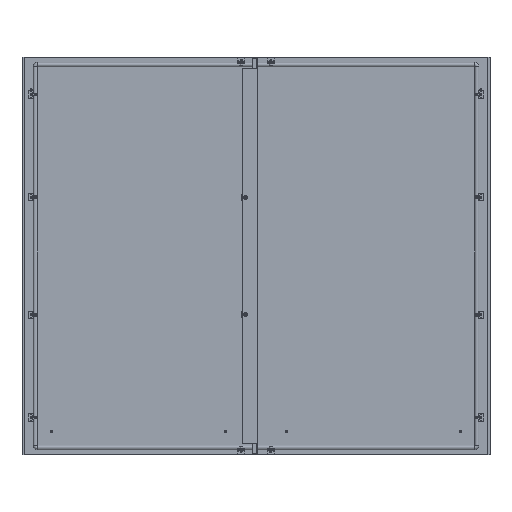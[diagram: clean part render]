
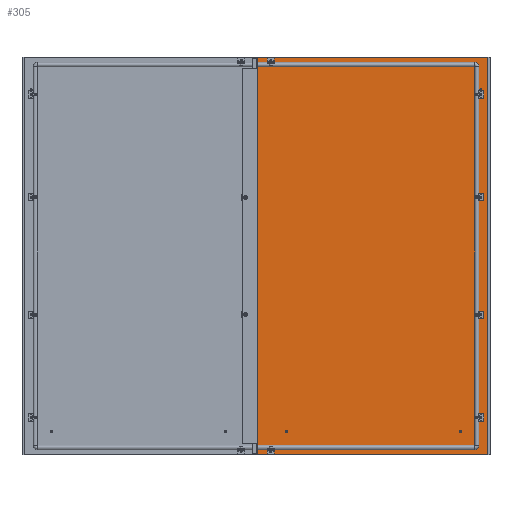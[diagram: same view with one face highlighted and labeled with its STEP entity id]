
A CAD part, top view. The second image highlights one B-rep face of the part: STEP entity #305.
In plain terms, the highlighted planar face has unit normal (0, 0, 1) as drawn and (0, 0, -1) by its records, which use the part's own axes.
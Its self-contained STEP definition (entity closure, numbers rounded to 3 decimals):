
#305 = ADVANCED_FACE('',(#306,#317,#328,#339,#350,#361,#372),#470,.T.);
#306 = FACE_BOUND('',#307,.T.);
#307 = EDGE_LOOP('',(#308));
#308 = ORIENTED_EDGE('',*,*,#309,.T.);
#309 = EDGE_CURVE('',#310,#310,#312,.T.);
#310 = VERTEX_POINT('',#311);
#311 = CARTESIAN_POINT('',(369.25,-550.,-1.5));
#312 = CIRCLE('',#313,4.75);
#313 = AXIS2_PLACEMENT_3D('',#314,#315,#316);
#314 = CARTESIAN_POINT('',(364.5,-550.,-1.5));
#315 = DIRECTION('',(0.,0.,1.));
#316 = DIRECTION('',(1.,0.,-0.));
#317 = FACE_BOUND('',#318,.T.);
#318 = EDGE_LOOP('',(#319));
#319 = ORIENTED_EDGE('',*,*,#320,.T.);
#320 = EDGE_CURVE('',#321,#321,#323,.T.);
#321 = VERTEX_POINT('',#322);
#322 = CARTESIAN_POINT('',(369.25,-200.,-1.5));
#323 = CIRCLE('',#324,4.75);
#324 = AXIS2_PLACEMENT_3D('',#325,#326,#327);
#325 = CARTESIAN_POINT('',(364.5,-200.,-1.5));
#326 = DIRECTION('',(0.,0.,1.));
#327 = DIRECTION('',(1.,0.,-0.));
#328 = FACE_BOUND('',#329,.T.);
#329 = EDGE_LOOP('',(#330));
#330 = ORIENTED_EDGE('',*,*,#331,.F.);
#331 = EDGE_CURVE('',#332,#332,#334,.T.);
#332 = VERTEX_POINT('',#333);
#333 = CARTESIAN_POINT('',(369.25,550.,-1.5));
#334 = CIRCLE('',#335,4.75);
#335 = AXIS2_PLACEMENT_3D('',#336,#337,#338);
#336 = CARTESIAN_POINT('',(364.5,550.,-1.5));
#337 = DIRECTION('',(0.,0.,-1.));
#338 = DIRECTION('',(1.,0.,0.));
#339 = FACE_BOUND('',#340,.T.);
#340 = EDGE_LOOP('',(#341));
#341 = ORIENTED_EDGE('',*,*,#342,.F.);
#342 = EDGE_CURVE('',#343,#343,#345,.T.);
#343 = VERTEX_POINT('',#344);
#344 = CARTESIAN_POINT('',(369.25,200.,-1.5));
#345 = CIRCLE('',#346,4.75);
#346 = AXIS2_PLACEMENT_3D('',#347,#348,#349);
#347 = CARTESIAN_POINT('',(364.5,200.,-1.5));
#348 = DIRECTION('',(0.,0.,-1.));
#349 = DIRECTION('',(1.,0.,0.));
#350 = FACE_BOUND('',#351,.T.);
#351 = EDGE_LOOP('',(#352));
#352 = ORIENTED_EDGE('',*,*,#353,.T.);
#353 = EDGE_CURVE('',#354,#354,#356,.T.);
#354 = VERTEX_POINT('',#355);
#355 = CARTESIAN_POINT('',(-354.75,664.5,-1.5));
#356 = CIRCLE('',#357,4.75);
#357 = AXIS2_PLACEMENT_3D('',#358,#359,#360);
#358 = CARTESIAN_POINT('',(-350.,664.5,-1.5));
#359 = DIRECTION('',(0.,0.,1.));
#360 = DIRECTION('',(-1.,0.,0.));
#361 = FACE_BOUND('',#362,.T.);
#362 = EDGE_LOOP('',(#363));
#363 = ORIENTED_EDGE('',*,*,#364,.T.);
#364 = EDGE_CURVE('',#365,#365,#367,.T.);
#365 = VERTEX_POINT('',#366);
#366 = CARTESIAN_POINT('',(-345.25,-664.5,-1.5));
#367 = CIRCLE('',#368,4.75);
#368 = AXIS2_PLACEMENT_3D('',#369,#370,#371);
#369 = CARTESIAN_POINT('',(-350.,-664.5,-1.5));
#370 = DIRECTION('',(0.,0.,1.));
#371 = DIRECTION('',(1.,0.,-0.));
#372 = FACE_BOUND('',#373,.T.);
#373 = EDGE_LOOP('',(#374,#384,#392,#400,#408,#416,#424,#432,#440,#448,
    #456,#464));
#374 = ORIENTED_EDGE('',*,*,#375,.F.);
#375 = EDGE_CURVE('',#376,#378,#380,.T.);
#376 = VERTEX_POINT('',#377);
#377 = CARTESIAN_POINT('',(-395.3,-676.,-1.5));
#378 = VERTEX_POINT('',#379);
#379 = CARTESIAN_POINT('',(395.3,-676.,-1.5));
#380 = LINE('',#381,#382);
#381 = CARTESIAN_POINT('',(0.,-676.,-1.5));
#382 = VECTOR('',#383,1.);
#383 = DIRECTION('',(1.,0.,0.));
#384 = ORIENTED_EDGE('',*,*,#385,.F.);
#385 = EDGE_CURVE('',#386,#376,#388,.T.);
#386 = VERTEX_POINT('',#387);
#387 = CARTESIAN_POINT('',(-395.3,-677.5,-1.5));
#388 = LINE('',#389,#390);
#389 = CARTESIAN_POINT('',(-395.3,0.,
    -1.5));
#390 = VECTOR('',#391,1.);
#391 = DIRECTION('',(0.,1.,0.));
#392 = ORIENTED_EDGE('',*,*,#393,.F.);
#393 = EDGE_CURVE('',#394,#386,#396,.T.);
#394 = VERTEX_POINT('',#395);
#395 = CARTESIAN_POINT('',(-395.5,-677.5,-1.5));
#396 = LINE('',#397,#398);
#397 = CARTESIAN_POINT('',(0.,-677.5,-1.5));
#398 = VECTOR('',#399,1.);
#399 = DIRECTION('',(1.,0.,0.));
#400 = ORIENTED_EDGE('',*,*,#401,.T.);
#401 = EDGE_CURVE('',#394,#402,#404,.T.);
#402 = VERTEX_POINT('',#403);
#403 = CARTESIAN_POINT('',(-395.5,677.5,-1.5));
#404 = LINE('',#405,#406);
#405 = CARTESIAN_POINT('',(-395.5,0.,-1.5));
#406 = VECTOR('',#407,1.);
#407 = DIRECTION('',(0.,1.,0.));
#408 = ORIENTED_EDGE('',*,*,#409,.F.);
#409 = EDGE_CURVE('',#410,#402,#412,.T.);
#410 = VERTEX_POINT('',#411);
#411 = CARTESIAN_POINT('',(-395.3,677.5,-1.5));
#412 = LINE('',#413,#414);
#413 = CARTESIAN_POINT('',(0.,677.5,-1.5));
#414 = VECTOR('',#415,1.);
#415 = DIRECTION('',(-1.,0.,0.));
#416 = ORIENTED_EDGE('',*,*,#417,.T.);
#417 = EDGE_CURVE('',#410,#418,#420,.T.);
#418 = VERTEX_POINT('',#419);
#419 = CARTESIAN_POINT('',(-395.3,676.,-1.5));
#420 = LINE('',#421,#422);
#421 = CARTESIAN_POINT('',(-395.3,0.,-1.5));
#422 = VECTOR('',#423,1.);
#423 = DIRECTION('',(0.,-1.,0.));
#424 = ORIENTED_EDGE('',*,*,#425,.F.);
#425 = EDGE_CURVE('',#426,#418,#428,.T.);
#426 = VERTEX_POINT('',#427);
#427 = CARTESIAN_POINT('',(395.3,676.,-1.5));
#428 = LINE('',#429,#430);
#429 = CARTESIAN_POINT('',(0.,676.,-1.5));
#430 = VECTOR('',#431,1.);
#431 = DIRECTION('',(-1.,0.,0.));
#432 = ORIENTED_EDGE('',*,*,#433,.F.);
#433 = EDGE_CURVE('',#434,#426,#436,.T.);
#434 = VERTEX_POINT('',#435);
#435 = CARTESIAN_POINT('',(395.3,677.5,-1.5));
#436 = LINE('',#437,#438);
#437 = CARTESIAN_POINT('',(395.3,0.,-1.5));
#438 = VECTOR('',#439,1.);
#439 = DIRECTION('',(0.,-1.,0.));
#440 = ORIENTED_EDGE('',*,*,#441,.F.);
#441 = EDGE_CURVE('',#442,#434,#444,.T.);
#442 = VERTEX_POINT('',#443);
#443 = CARTESIAN_POINT('',(395.5,677.5,-1.5));
#444 = LINE('',#445,#446);
#445 = CARTESIAN_POINT('',(0.,677.5,-1.5));
#446 = VECTOR('',#447,1.);
#447 = DIRECTION('',(-1.,0.,0.));
#448 = ORIENTED_EDGE('',*,*,#449,.T.);
#449 = EDGE_CURVE('',#442,#450,#452,.T.);
#450 = VERTEX_POINT('',#451);
#451 = CARTESIAN_POINT('',(395.5,-677.5,-1.5));
#452 = LINE('',#453,#454);
#453 = CARTESIAN_POINT('',(395.5,0.,-1.5));
#454 = VECTOR('',#455,1.);
#455 = DIRECTION('',(0.,-1.,0.));
#456 = ORIENTED_EDGE('',*,*,#457,.F.);
#457 = EDGE_CURVE('',#458,#450,#460,.T.);
#458 = VERTEX_POINT('',#459);
#459 = CARTESIAN_POINT('',(395.3,-677.5,-1.5));
#460 = LINE('',#461,#462);
#461 = CARTESIAN_POINT('',(0.,-677.5,-1.5));
#462 = VECTOR('',#463,1.);
#463 = DIRECTION('',(1.,0.,0.));
#464 = ORIENTED_EDGE('',*,*,#465,.T.);
#465 = EDGE_CURVE('',#458,#378,#466,.T.);
#466 = LINE('',#467,#468);
#467 = CARTESIAN_POINT('',(395.3,0.,-1.5));
#468 = VECTOR('',#469,1.);
#469 = DIRECTION('',(0.,1.,0.));
#470 = PLANE('',#471);
#471 = AXIS2_PLACEMENT_3D('',#472,#473,#474);
#472 = CARTESIAN_POINT('',(0.,0.,
    -1.5));
#473 = DIRECTION('',(0.,0.,-1.));
#474 = DIRECTION('',(-1.,0.,0.));
